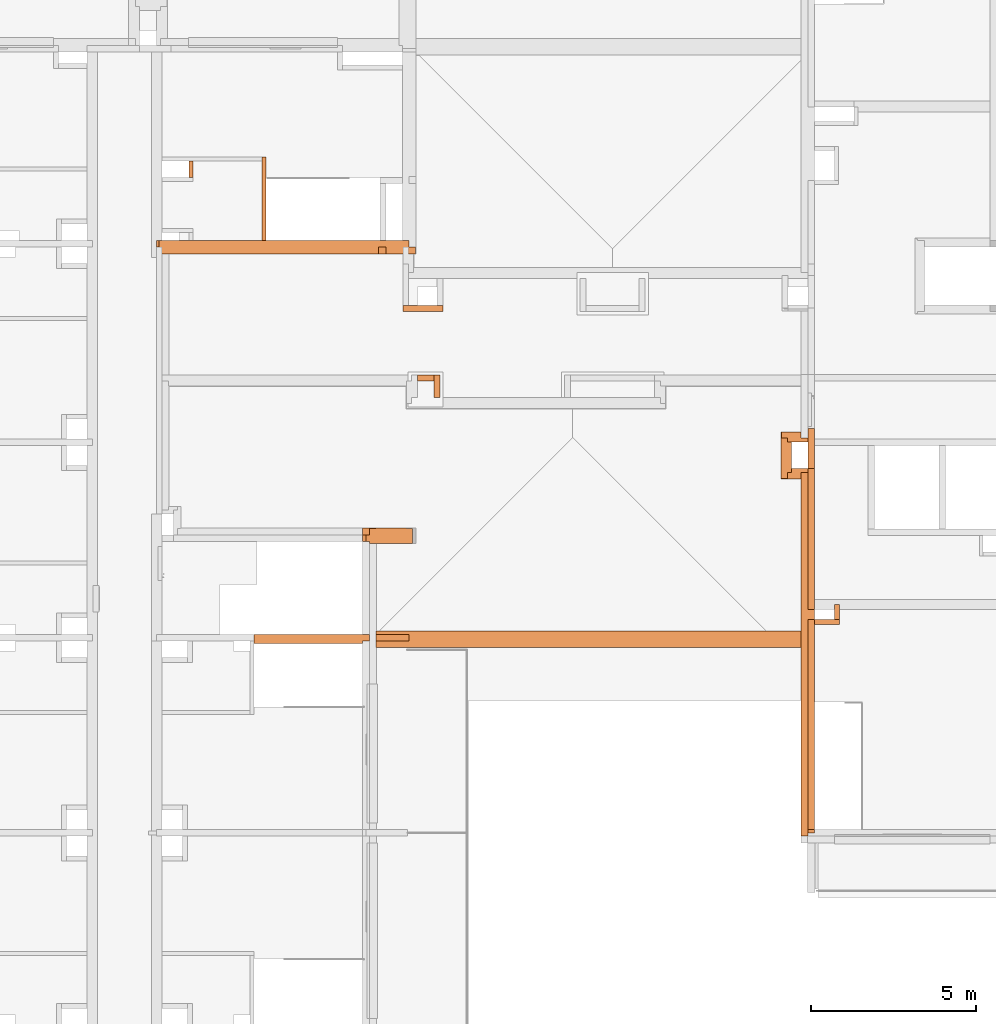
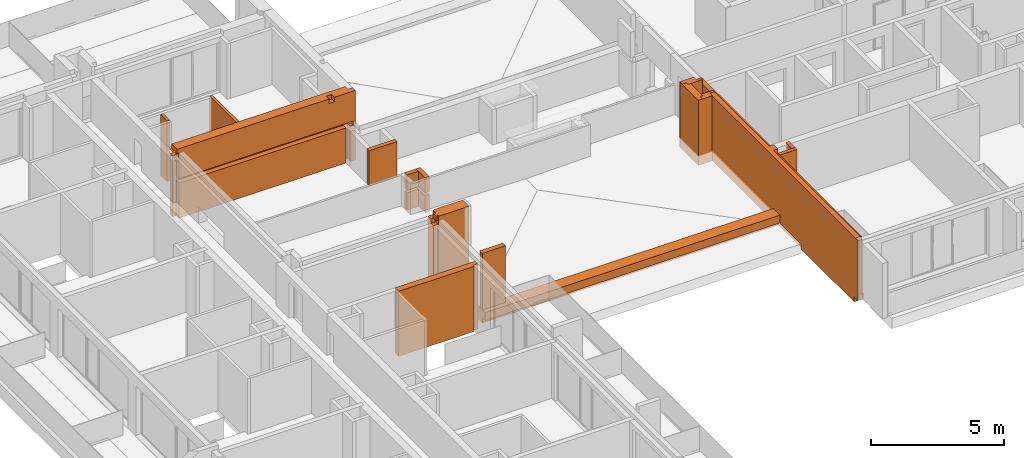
# One storey, part 18 of 30: 17 proxies, 1 opening.
"""IFC2X3 building model written with IfcOpenShell, lengths in millimetres."""

import ifcopenshell
import ifcopenshell.guid

model = None  # the IFC model being written
_history = None  # IfcOwnerHistory: only IFC2X3 demands one
_inside = {}  # id of a spatial element -> (the spatial element, [elements in it])
_under = {}  # id of a project, library or spatial element -> (it, [spatial elements below it])
_declared = {}  # id of a project -> (the project, [libraries it declares])
_typed = {}  # id of a type object -> (the type object, [elements of that type])
_made_of = {}  # id of a material, layer set ... -> (it, [elements and type objects made of it])


def new_model(schema):
    """Start an empty IFC model of exactly this schema.

    Asked for "IFC4X3", IfcOpenShell would pick the latest addendum, in which some entities
    have other attributes; the version numbers below select the first issue.
    IFC2X3 requires an IfcOwnerHistory on every rooted entity: one is made here for all.
    """
    global model, _history
    if schema == "IFC4X3":
        model = ifcopenshell.file(schema_version=(4, 3, 0, 0))
    else:
        model = ifcopenshell.file(schema=schema)
    _inside.clear()
    _under.clear()
    _declared.clear()
    _typed.clear()
    _made_of.clear()
    _history = None
    if model.schema == "IFC2X3":
        org = make("IfcOrganization", Name="unknown")
        user = make(
            "IfcPersonAndOrganization",
            ThePerson=make("IfcPerson", FamilyName="unknown"),
            TheOrganization=org,
        )
        app = make(
            "IfcApplication",
            ApplicationDeveloper=org,
            Version="unknown",
            ApplicationFullName="unknown",
            ApplicationIdentifier="unknown",
        )
        _history = make(
            "IfcOwnerHistory",
            OwningUser=user,
            OwningApplication=app,
            ChangeAction="ADDED",
            CreationDate=0,
        )
    return model


def make(cls, **values):
    """One entity of the class cls with the attributes given. An attribute that is None is left unset."""
    return model.create_entity(
        cls, **{name: value for name, value in values.items() if value is not None}
    )


def entity(cls, *values):
    """Any entity or typed value of the class cls, its attributes in the order of the schema. None: left unset."""
    e = model.create_entity(cls)
    for i, value in enumerate(values):
        if value is not None:
            e[i] = value
    return e


def rooted(cls, **values):
    """An entity with a GlobalId (a new one), such as an element, a storey or a relation."""
    return make(cls, GlobalId=ifcopenshell.guid.new(), OwnerHistory=_history, **values)


def si_unit(unit_type, name, prefix=None):
    """IfcSIUnit, for example si_unit("LENGTHUNIT", "METRE", prefix="MILLI")."""
    return make("IfcSIUnit", UnitType=unit_type, Prefix=prefix, Name=name)


def converted_unit(unit_type, name, factor, base, dimensions=None, offset=None):
    """IfcConversionBasedUnit, such as the inch: factor (a typed value) times the base unit."""
    return make(
        "IfcConversionBasedUnit"
        if offset is None
        else "IfcConversionBasedUnitWithOffset",
        ConversionOffset=offset,
        Dimensions=None
        if dimensions is None
        else entity("IfcDimensionalExponents", *dimensions),
        UnitType=unit_type,
        Name=name,
        ConversionFactor=make(
            "IfcMeasureWithUnit", ValueComponent=factor, UnitComponent=base
        ),
    )


def derived_unit(unit_type, elements):
    """IfcDerivedUnit: a product of units, each with its exponent."""
    return make(
        "IfcDerivedUnit",
        Elements=[
            make("IfcDerivedUnitElement", Unit=unit, Exponent=power)
            for unit, power in elements
        ],
        UnitType=unit_type,
    )


def money_unit(currency):
    """IfcMonetaryUnit."""
    return make("IfcMonetaryUnit", Currency=currency)


def assignment(units):
    """IfcUnitAssignment: the units of a project."""
    return None if units is None else make("IfcUnitAssignment", Units=units)


def point(xyz):
    """IfcCartesianPoint."""
    return None if xyz is None else make("IfcCartesianPoint", Coordinates=xyz)


def direction(xyz):
    """IfcDirection."""
    return None if xyz is None else make("IfcDirection", DirectionRatios=xyz)


def frame(location, z_axis=None, x_axis=None):
    """IfcAxis2Placement3D, a coordinate frame: its origin and axes. An axis left out is left unset."""
    return make(
        "IfcAxis2Placement3D",
        Location=point(location),
        Axis=direction(z_axis),
        RefDirection=direction(x_axis),
    )


def frame_2d(location, x_axis=None):
    """IfcAxis2Placement2D, a coordinate frame in the plane: its origin and x axis."""
    return make(
        "IfcAxis2Placement2D", Location=point(location), RefDirection=direction(x_axis)
    )


def origin_with_axes():
    """The frame at (0, 0, 0) with the z axis (0, 0, 1) and the x axis (1, 0, 0) written out."""
    return frame((0.0, 0.0, 0.0), z_axis=(0.0, 0.0, 1.0), x_axis=(1.0, 0.0, 0.0))


def origin_2d_with_axis():
    """The frame at (0, 0) in the plane with the x axis (1, 0) written out."""
    return frame_2d((0.0, 0.0), x_axis=(1.0, 0.0))


def place(relative_to, where):
    """IfcLocalPlacement: puts the frame where relative to a parent placement (None: the world)."""
    return make(
        "IfcLocalPlacement", PlacementRelTo=relative_to, RelativePlacement=where
    )


def context(
    kind, dimensions, precision=None, world=None, true_north=None, identifier=None
):
    """IfcGeometricRepresentationContext, for example the 3D "Model" context."""
    return make(
        "IfcGeometricRepresentationContext",
        ContextIdentifier=identifier,
        ContextType=kind,
        CoordinateSpaceDimension=dimensions,
        Precision=precision,
        WorldCoordinateSystem=world,
        TrueNorth=true_north,
    )


def subcontext(parent, identifier, kind, view, scale=None):
    """IfcGeometricRepresentationSubContext, for example "Body" below "Model"."""
    return make(
        "IfcGeometricRepresentationSubContext",
        ContextIdentifier=identifier,
        ContextType=kind,
        ParentContext=parent,
        TargetScale=scale,
        TargetView=view,
    )


def project(units=None, contexts=None):
    """IfcProject with its units and contexts."""
    return rooted(
        "IfcProject",
        Name="project",
        RepresentationContexts=contexts,
        UnitsInContext=assignment(units),
    )


def spatial(cls, under=None, at=None, **own):
    """A site, building, storey or space (cls), placed at a placement, below another one or the project."""
    s = rooted(cls, ObjectPlacement=at, **own)
    if under is not None:
        _under.setdefault(under.id(), (under, []))[1].append(s)
    return s


def profile(cls, at=None, kind="AREA", **sizes):
    """A parametric profile (cls). Its sizes go by their IFC names, for example OverallWidth=200.0."""
    return make(cls, ProfileType=kind, Position=at, **sizes)


def rectangle(**sizes):
    """IfcRectangleProfileDef."""
    return profile("IfcRectangleProfileDef", **sizes)


def extrude(swept, where, along, depth):
    """IfcExtrudedAreaSolid: the profile swept, set in the frame where, extruded along a direction by depth."""
    return make(
        "IfcExtrudedAreaSolid",
        SweptArea=swept,
        Position=where,
        ExtrudedDirection=direction(along),
        Depth=depth,
    )


def faces_of(points, faces, orient=None, outer=None):
    """IfcFace entities. A face is a list of loops; a loop is a list of indices into points, from 0.

    orient and outer hold one flag for each loop. By default every Orientation is true, the
    first loop of a face is its IfcFaceOuterBound and the others are IfcFaceBound.
    """
    made = []
    for i, loops in enumerate(faces):
        bounds = []
        for j, loop in enumerate(loops):
            is_outer = j == 0 if outer is None else outer[i][j]
            bounds.append(
                make(
                    "IfcFaceOuterBound" if is_outer else "IfcFaceBound",
                    Bound=make("IfcPolyLoop", Polygon=[points[k] for k in loop]),
                    Orientation=True if orient is None else orient[i][j],
                )
            )
        made.append(make("IfcFace", Bounds=bounds))
    return made


def faceted_brep(points, faces, orient=None, outer=None, voids=None):
    """IfcFacetedBrep: a solid bounded by flat faces; with voids (closed shells), ...WithVoids."""
    shared = [point(p) for p in points]
    hull = make("IfcClosedShell", CfsFaces=faces_of(shared, faces, orient, outer))
    if voids is None:
        return make("IfcFacetedBrep", Outer=hull)
    return make(
        "IfcFacetedBrepWithVoids",
        Outer=hull,
        Voids=[
            make(cls, CfsFaces=faces_of(shared, fs, o, b)) for cls, fs, o, b in voids
        ],
    )


def shape(context_of_items, identifier, shape_type, items):
    """IfcShapeRepresentation: the items that make up one representation, for example the "Body"."""
    return make(
        "IfcShapeRepresentation",
        ContextOfItems=context_of_items,
        RepresentationIdentifier=identifier,
        RepresentationType=shape_type,
        Items=items,
    )


def material(Name=None, Category=None):
    """IfcMaterial."""
    return make("IfcMaterial", Name=Name, Category=Category)


def material_list(materials):
    """IfcMaterialList."""
    return make("IfcMaterialList", Materials=materials)


def made_of(thing, what):
    """Note that an element or type object is made of a material, layer set ...; save() writes the relation."""
    if what is not None:
        _made_of.setdefault(what.id(), (what, []))[1].append(thing)
    return thing


def type_object(cls, material=None, **own):
    """A type object (cls), such as IfcWallType, which elements share."""
    return made_of(rooted(cls, **own), material)


def element(
    cls,
    number,
    at=None,
    inside=None,
    cuts=None,
    type_object=None,
    material=None,
    context=None,
    identifier="Body",
    shape_type=None,
    held_by="IfcProductDefinitionShape",
    body=None,
    shapes=None,
    **own,
):
    """One element of the class cls, such as IfcWall. Its Tag is "e" and its number.

    at: its placement. inside: the storey or other place that contains it. cuts: it is an
    opening in that element (IfcRelVoidsElement). A single representation is given by context,
    identifier, shape_type and body (its items); several are given by shapes. held_by: the class
    of the entity that holds the representations. save() writes the other relations.
    """
    e = rooted(cls, Tag="e%d" % number, ObjectPlacement=at, **own)
    if body is not None:
        shapes = [shape(context, identifier, shape_type, body)]
    if shapes is not None:
        e.Representation = make(held_by, Representations=shapes)
    if inside is not None:
        _inside.setdefault(inside.id(), (inside, []))[1].append(e)
    if cuts is not None:
        rooted(
            "IfcRelVoidsElement", RelatingBuildingElement=cuts, RelatedOpeningElement=e
        )
    if type_object is not None:
        _typed.setdefault(type_object.id(), (type_object, []))[1].append(e)
    return made_of(e, material)


def aggregate(whole, parts):
    """IfcRelAggregates: a whole, such as a stair, and the parts it consists of."""
    return rooted("IfcRelAggregates", RelatingObject=whole, RelatedObjects=parts)


def save(model, path):
    """Write the relations noted so far, then the file.

    IfcRelAggregates (storeys below a building ...), IfcRelContainedInSpatialStructure (elements
    in a storey), IfcRelDefinesByType, IfcRelAssociatesMaterial and IfcRelDeclares: one each for
    every whole, place, type object, material and project.
    """
    for whole, parts in _under.values():
        aggregate(whole, parts)
    for where, things in _inside.values():
        rooted(
            "IfcRelContainedInSpatialStructure",
            RelatedElements=things,
            RelatingStructure=where,
        )
    for kind, things in _typed.values():
        rooted("IfcRelDefinesByType", RelatedObjects=things, RelatingType=kind)
    for what, things in _made_of.values():
        rooted("IfcRelAssociatesMaterial", RelatedObjects=things, RelatingMaterial=what)
    for by, libraries in _declared.values():
        rooted("IfcRelDeclares", RelatingContext=by, RelatedDefinitions=libraries)
    model.write(path)


model = new_model("IFC2X3")

# Units and contexts
model_context = context("Model", 3, precision=0.01, world=origin_with_axes(), true_north=direction((0.34421633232, 0.938890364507)))
body_context = subcontext(model_context, "Body", "Model", "MODEL_VIEW")
ifc_project = project(units=[si_unit("LENGTHUNIT", "METRE", prefix="MILLI"), si_unit("AREAUNIT", "SQUARE_METRE"), si_unit("VOLUMEUNIT", "CUBIC_METRE"), converted_unit("PLANEANGLEUNIT", "DEGREE", entity("IfcPlaneAngleMeasure", 0.0174532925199), si_unit("PLANEANGLEUNIT", "RADIAN"), dimensions=[0, 0, 0, 0, 0, 0, 0]), si_unit("SOLIDANGLEUNIT", "STERADIAN"), money_unit("USD"), converted_unit("TIMEUNIT", "Year", entity("IfcTimeMeasure", 31556926.0), si_unit("TIMEUNIT", "SECOND"), dimensions=[0, 0, 1, 0, 0, 0, 0]), si_unit("MASSUNIT", "GRAM", prefix="KILO"), si_unit("THERMODYNAMICTEMPERATUREUNIT", "DEGREE_CELSIUS"), si_unit("LUMINOUSINTENSITYUNIT", "LUMEN"), si_unit("ENERGYUNIT", "JOULE", prefix="MEGA"), derived_unit("THERMALCONDUCTANCEUNIT", [(si_unit("POWERUNIT", "WATT"), 1), (si_unit("LENGTHUNIT", "METRE"), -1), (si_unit("THERMODYNAMICTEMPERATUREUNIT", "KELVIN"), -1)]), derived_unit("SPECIFICHEATCAPACITYUNIT", [(si_unit("ENERGYUNIT", "JOULE"), 1), (si_unit("MASSUNIT", "GRAM", prefix="KILO"), -1), (si_unit("THERMODYNAMICTEMPERATUREUNIT", "KELVIN"), -1)]), derived_unit("MASSDENSITYUNIT", [(si_unit("MASSUNIT", "GRAM", prefix="KILO"), 1), (si_unit("VOLUMEUNIT", "CUBIC_METRE"), -1)])], contexts=[model_context])

# Site, building, storey
site_placement = place(None, origin_with_axes())
site = spatial("IfcSite", under=ifc_project, at=site_placement, Name="USTRONIE MORSKIE", CompositionType="ELEMENT")
building_placement = place(site_placement, origin_with_axes())
building = spatial("IfcBuilding", under=site, at=building_placement, Name="Budynek", CompositionType="ELEMENT")
storey_placement = place(building_placement, frame((0.0, 0.0, 16000.0), z_axis=(0.0, 0.0, 1.0), x_axis=(1.0, 0.0, 0.0)))
storey = spatial("IfcBuildingStorey", under=building, at=storey_placement, Name="ANTRESOLA - KOND. TECHNICZNA", CompositionType="ELEMENT", Elevation=16000.0)

# Proxies
ifc_material_1 = material(Name="Bloczki silikatowe")
building_element_proxy_type_1 = type_object("IfcBuildingElementProxyType", Name="Bloczki silikatowe 120", PredefinedType="NOTDEFINED")
proxy_1_placement = place(storey_placement, frame((362787.920875, 738901.199036, -160.0), z_axis=(0.0, 0.0, 1.0), x_axis=(0.0, 1.0, 0.0)))
element("IfcBuildingElementProxy", 1, at=proxy_1_placement, inside=storey, type_object=building_element_proxy_type_1, material=ifc_material_1, Name="SW-04", context=body_context, shape_type="Brep", body=[
    faceted_brep([(2519.98134114, -60.0, 2800.0), (2519.98134114, 60.0, 2800.0), (0.0, 60.0, 2800.0), (0.0, -60.0, 2800.0), (2519.98134114, -60.0, 0.0), (2519.98134114, 60.0, 0.0), (0.0, 60.0, 0.0), (0.0, -60.0, 0.0)], [[[0, 1, 2, 3]], [[1, 0, 4, 5]], [[1, 5, 6, 2]], [[7, 3, 2, 6]], [[4, 0, 3, 7]], [[5, 4, 7, 6]]]),
])
proxy_2_placement = place(storey_placement, frame((360577.922714, 741361.180377, -160.0), z_axis=(0.0, 0.0, 1.0), x_axis=(0.0, -1.0, 0.0)))
element("IfcBuildingElementProxy", 2, at=proxy_2_placement, inside=storey, type_object=building_element_proxy_type_1, material=ifc_material_1, Name="SW-04", context=body_context, shape_type="Brep", body=[
    faceted_brep([(560.00090117, 60.0, 0.0), (560.00090117, -60.0, 0.0), (59.9999999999, -60.0, 0.0), (59.9999999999, 60.0, 0.0), (560.00090117, 60.0, 2800.0), (560.00090117, -60.0, 2800.0), (59.9999999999, -60.0, 2800.0), (59.9999999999, 60.0, 2800.0)], [[[0, 1, 2, 3]], [[1, 0, 4, 5]], [[1, 5, 6, 2]], [[7, 3, 2, 6]], [[4, 0, 3, 7]], [[5, 4, 7, 6]]]),
])
ifc_material_2 = material(Name="Beton konstrukcyjny B25")
ifc_material_3 = material(Name="Wełna ELEW")
ifc_material_4 = material(Name="Tynk zewnętrzny")
ifc_material_list_1 = material_list([ifc_material_2, ifc_material_3, ifc_material_4])
building_element_proxy_type_2 = type_object("IfcBuildingElementProxyType", Name="20+20 410", PredefinedType="NOTDEFINED")
proxy_3_placement = place(storey_placement, frame((379317.920919, 732011.199132, -160.0), z_axis=(0.0, 0.0, 1.0), x_axis=(0.0, -1.0, 0.0)))
element("IfcBuildingElementProxy", 3, at=proxy_3_placement, inside=storey, type_object=building_element_proxy_type_2, material=ifc_material_list_1, Name="Œciana-006", context=body_context, shape_type="Brep", body=[
    faceted_brep([(4560.00009633, -100.0, 3000.0), (4560.00009633, 100.0, 3000.0), (4260.00009633, 100.0, 3000.0), (4260.00009633, -100.0, 3000.0), (4560.00009633, 100.0, 2800.0), (4560.00009633, -100.0, 2800.0), (10910.0000963, 100.0, 2800.0), (10910.0000963, 100.0, 239.99999792), (11010.0000963, 100.0, 239.99999792), (11010.0000963, 100.0, 0.0), (0.0, 100.0, 0.0), (0.0, 100.0, 2800.0), (4260.00009633, 100.0, 2800.0), (4260.00009633, -100.0, 2800.0), (0.0, -100.0, 2800.0), (0.0, -100.0, 0.0), (11010.0000963, -100.0, 0.0), (11010.0000963, -100.0, 239.99999792), (10910.0000963, -100.0, 239.99999792), (10910.0000963, -100.0, 2800.0)], [[[0, 1, 2, 3]], [[4, 1, 0, 5]], [[4, 6, 7, 8, 9, 10, 11, 12, 2, 1]], [[3, 2, 12, 13]], [[5, 0, 3, 13, 14, 15, 16, 17, 18, 19]], [[6, 4, 5, 19]], [[6, 19, 18, 7]], [[17, 8, 7, 18]], [[9, 8, 17, 16]], [[15, 10, 9, 16]], [[14, 11, 10, 15]], [[12, 11, 14, 13]]]),
    faceted_brep([(7010.00076688, -250.000165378, 240.000001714), (7010.00076688, -300.0, 240.000001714), (5210.00009633, -300.0, 240.000001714), (5210.00009633, -249.999904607, 240.000001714), (7010.00076688, -300.0, 1.71373493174e-06), (7010.00076688, -250.000165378, 1.71373493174e-06), (11010.0000963, -300.0, 0.0), (11010.0000963, -300.0, 240.0), (11110.0000963, -300.0, 239.99999792), (11110.0000963, -300.0, 3000.0), (120.0, -300.0, 3000.0), (120.0, -300.0, 5.0), (5210.00009633, -300.0, 5.00000171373), (5210.00009633, -249.999904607, 5.00000171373), (5210.00009633, -249.999904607, 1.71373493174e-06), (5210.00009633, -100.0, 0.0), (11010.0000963, -100.0, 0.0), (11010.0000963, -100.0, 240.0), (11110.0000963, -100.0, 239.99999792), (11110.0000963, -100.0, 3000.0), (120.0, -100.0, 3000.0), (120.0, -100.0, 5.0), (5210.00009633, -100.0, 5.0)], [[[0, 1, 2, 3]], [[4, 1, 0, 5]], [[2, 1, 4, 6, 7, 8, 9, 10, 11, 12]], [[13, 3, 2, 12]], [[5, 0, 3, 13, 14]], [[4, 5, 14, 15, 16, 6]], [[17, 7, 6, 16]], [[7, 17, 18, 8]], [[9, 8, 18, 19]], [[20, 10, 9, 19]], [[21, 11, 10, 20]], [[22, 13, 12, 11, 21]], [[15, 14, 13, 22]], [[16, 15, 22, 21, 20, 19, 18, 17]]]),
    faceted_brep([(4910.00009633, -299.990240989, 5.00000160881), (4910.00009633, -299.990240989, 457.212185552), (310.0, -299.990240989, 457.212186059), (310.0, -300.0, 3000.0), (11310.0000963, -300.0, 3000.0), (11310.0000963, -300.0, 239.99999792), (11010.0000963, -300.0, 240.0), (11010.0000963, -300.0, 0.0), (7010.00076688, -300.0, 1.71373493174e-06), (7010.00076688, -300.0, 240.000001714), (5210.00009633, -300.0, 240.000001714), (5210.00009633, -300.0, 5.00000171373), (4910.00009633, -310.0, 5.00000160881), (4910.00009633, -310.0, 457.011990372), (310.0, -310.0, 457.011990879), (310.0, -310.0, 3000.0), (11310.0000963, -310.0, 3000.0), (11310.0000963, -310.0, 239.99999792), (11010.0000963, -310.0, 240.0), (11010.0000963, -310.0, 0.0), (7010.00076688, -310.0, 1.71373493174e-06), (7010.00076688, -310.0, 240.000001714), (5210.00009633, -310.0, 240.000001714), (5210.00009633, -310.0, 5.00000171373)], [[[0, 1, 2, 3, 4, 5, 6, 7, 8, 9, 10, 11]], [[1, 0, 12, 13]], [[14, 2, 1, 13]], [[2, 14, 15, 3]], [[3, 15, 16, 4]], [[16, 17, 5, 4]], [[18, 6, 5, 17]], [[6, 18, 19, 7]], [[19, 20, 8, 7]], [[20, 21, 9, 8]], [[22, 10, 9, 21]], [[11, 10, 22, 23]], [[12, 0, 11, 23]], [[13, 12, 23, 22, 21, 20, 19, 18, 17, 16, 15, 14]]]),
])
proxy_4_placement = place(storey_placement, frame((359617.920919, 738801.199036, -160.0), z_axis=(0.0, 0.0, 1.0), x_axis=(1.0, 0.0, 0.0)))
element("IfcBuildingElementProxy", 4, at=proxy_4_placement, inside=storey, type_object=building_element_proxy_type_2, material=ifc_material_list_1, Name="SZ-01", context=body_context, shape_type="Brep", body=[
    faceted_brep([(-80.0, 100.0, 0.0), (-80.0, 100.0, 2800.0), (6850.0, 100.0, 2800.0), (6850.0, 100.0, 3000.0), (-80.0, 100.0, 3000.0), (-80.0, 100.0, 3005.0), (0.0, 100.0, 3005.0), (0.0, 100.0, 3210.0), (7550.0, 100.0, 3210.0), (7550.0, 100.0, 7.43902717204e-08), (-80.0, -100.0, 0.0), (-80.0, -100.0, 2800.0), (6850.0, -100.000111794, 2800.0), (79.9999481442, -100.000111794, 2800.0), (6850.0, -100.000111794, 3000.0), (-80.0, -100.0, 3000.0), (-80.0, -100.0, 3005.0), (0.0, -100.0, 3005.0), (0.0, -100.0, 3210.0), (7550.0, -100.0, 3210.0), (7550.0, -100.0, 0.0)], [[[0, 1, 2, 3, 4, 5, 6, 7, 8, 9]], [[10, 11, 1, 0]], [[12, 2, 1, 11, 13]], [[14, 3, 2, 12]], [[15, 4, 3, 14]], [[5, 4, 15, 16]], [[5, 16, 17, 6]], [[7, 6, 17, 18]], [[7, 18, 19, 8]], [[8, 19, 20, 9]], [[10, 0, 9, 20]], [[12, 13, 11, 10, 20, 19, 18, 17, 16, 15, 14]]]),
    faceted_brep([(79.9999481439, -100.000111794, 1620.00000171), (7360.0, -100.000111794, 1620.00000171), (7360.0, -100.000013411, 5.0), (80.0, -100.000013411, 5.0), (7360.0, -300.0, 1620.00000171), (79.9999481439, -300.0, 1620.00000171), (7360.0, -300.0, 5.0), (80.0, -300.0, 5.0)], [[[0, 1, 2, 3]], [[4, 1, 0, 5]], [[1, 4, 6, 2]], [[3, 2, 6, 7]], [[5, 0, 3, 7]], [[4, 5, 7, 6]]]),
    faceted_brep([(7690.0, -100.000111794, 1825.00000171), (79.9999481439, -100.000111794, 1825.00000171), (80.0, -100.0, 3005.0), (0.0, -100.0, 3005.0), (0.0, -100.0, 3210.0), (6630.0, -100.0, 3210.0), (6630.0, -100.0, 3000.0), (6850.0, -100.0, 3000.0), (6850.0, -100.0, 3210.0), (7750.0, -100.0, 3210.0), (7750.0, -100.0, 5.0), (7549.99992847, -100.000013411, 5.0), (7539.99999881, -100.000013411, 5.0), (7539.99999987, -100.000111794, 1620.00000171), (7690.0, -100.000111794, 1620.00000171), (7690.0, -100.000111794, 1820.00000171), (7690.0, -300.0, 1825.00000171), (79.9999481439, -300.0, 1825.00000171), (80.0, -300.0, 3005.0), (0.0, -300.0, 3005.0), (0.0, -300.0, 3210.0), (6630.0, -300.0, 3210.0), (6630.0, -300.0, 3000.0), (6850.0, -300.0, 3000.0), (6850.0, -300.0, 3210.0), (7750.0, -300.0, 3210.0), (7750.0, -300.0, 5.0), (7539.99999881, -300.0, 5.0), (7539.99999987, -300.0, 1620.00000171), (7690.0, -300.0, 1620.00000171), (7690.0, -300.0, 1820.00000171)], [[[0, 1, 2, 3, 4, 5, 6, 7, 8, 9, 10, 11, 12, 13, 14, 15]], [[1, 0, 16, 17]], [[1, 17, 18, 2]], [[19, 3, 2, 18]], [[4, 3, 19, 20]], [[20, 21, 5, 4]], [[22, 6, 5, 21]], [[7, 6, 22, 23]], [[23, 24, 8, 7]], [[9, 8, 24, 25]], [[26, 10, 9, 25]], [[11, 10, 26, 27, 12]], [[28, 13, 12, 27]], [[14, 13, 28, 29]], [[30, 15, 14, 29]], [[0, 15, 30, 16]], [[16, 30, 29, 28, 27, 26, 25, 24, 23, 22, 21, 20, 19, 18, 17]]]),
    faceted_brep([(280.0, -300.0, 1620.00000171), (7360.0, -300.0, 1620.00000171), (7360.0, -300.0, 5.0), (280.0, -300.0, 5.0), (7360.0, -310.0, 1620.00000171), (280.0, -310.0, 1620.00000171), (7360.0, -310.0, 5.0), (280.0, -310.0, 5.0)], [[[0, 1, 2, 3]], [[4, 1, 0, 5]], [[1, 4, 6, 2]], [[3, 2, 6, 7]], [[5, 0, 3, 7]], [[4, 5, 7, 6]]]),
    faceted_brep([(7690.0, -300.0, 1825.00000171), (280.0, -300.0, 1825.00000171), (280.0, -300.0, 3005.0), (0.0, -300.0, 3005.0), (0.0, -300.0, 3210.0), (6620.0, -300.0, 3210.0), (6620.0, -300.0, 3000.0), (6850.0, -300.0, 3000.0), (6850.0, -300.0, 3210.0), (7760.0, -300.0, 3210.0), (7760.0, -300.0, 1819.99999023), (7760.0, -300.0, 5.0), (7690.00000119, -300.0, 5.0), (7690.0, -300.0, 1820.00000171), (7690.0, -310.000111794, 1825.00000171), (280.0, -310.0, 1825.00000171), (280.0, -310.0, 3005.0), (0.0, -310.0, 3005.0), (0.0, -310.0, 3210.0), (6620.0, -310.000111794, 3210.0), (6620.0, -310.000111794, 3000.0), (6850.0, -310.000111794, 3000.0), (6850.0, -310.000111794, 3210.0), (7760.0, -310.0, 3210.0), (7760.0, -310.0, 1819.99999023), (7760.0, -310.0, 5.0), (7690.00000119, -310.0, 5.0), (7690.0, -310.0, 1820.00000171)], [[[0, 1, 2, 3, 4, 5, 6, 7, 8, 9, 10, 11, 12, 13]], [[1, 0, 14, 15]], [[1, 15, 16, 2]], [[3, 2, 16, 17]], [[4, 3, 17, 18]], [[18, 19, 5, 4]], [[20, 6, 5, 19]], [[7, 6, 20, 21]], [[21, 22, 8, 7]], [[9, 8, 22, 23]], [[9, 23, 24, 10]], [[25, 11, 10, 24]], [[12, 11, 25, 26]], [[27, 13, 12, 26]], [[0, 13, 27, 14]], [[14, 27, 26, 25, 24, 23, 22, 21, 20, 19, 18, 17, 16, 15]]]),
])
building_element_proxy_type_3 = type_object("IfcBuildingElementProxyType", Name="Bloczki silikatowe 180", PredefinedType="NOTDEFINED")
proxy_5_placement = place(storey_placement, frame((368007.880972, 734741.214609, -159.999998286), z_axis=(0.0, 0.0, 1.0), x_axis=(1.01056317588e-05, -0.999999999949, 0.0)))
element("IfcBuildingElementProxy", 5, at=proxy_5_placement, inside=storey, type_object=building_element_proxy_type_3, material=ifc_material_1, Name="SW-02", context=body_context, shape_type="Brep", body=[
    faceted_brep([(-89.9990904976, -90.0, 0.0), (-89.9990904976, -90.0, 800.0), (-90.0009095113, 90.0, 800.0), (-90.0009095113, 90.0, 0.0), (590.011815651, -90.0, 0.0), (590.011815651, -90.0, 800.0), (590.013634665, 90.0, 800.0), (590.013634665, 90.0, 0.0)], [[[0, 1, 2, 3]], [[4, 5, 1, 0]], [[5, 6, 2, 1]], [[3, 2, 6, 7]], [[3, 7, 4, 0]], [[7, 6, 5, 4]]]),
    faceted_brep([(-89.9990904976, -90.0, 920.0), (-89.9990904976, -90.0, 1620.0), (-90.0009095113, 90.0, 1620.0), (-90.0009095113, 90.0, 920.0), (590.011815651, -90.0, 1620.0), (90.0000000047, -90.0, 1620.0), (590.011815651, -90.0, 920.0), (590.013634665, 90.0, 1620.0), (90.0009095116, 90.0, 1620.0), (590.013634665, 90.0, 920.0)], [[[0, 1, 2, 3]], [[4, 5, 1, 0, 6]], [[7, 8, 2, 1, 5, 4]], [[3, 2, 8, 7, 9]], [[6, 0, 3, 9]], [[9, 7, 4, 6]]]),
])
proxy_6_placement = place(storey_placement, frame((367067.920919, 736841.199036, -160.0), z_axis=(0.0, 0.0, 1.0), x_axis=(1.0, 0.0, 0.0)))
element("IfcBuildingElementProxy", 6, at=proxy_6_placement, inside=storey, type_object=building_element_proxy_type_3, material=ifc_material_1, Name="SW-02", context=body_context, shape_type="Brep", body=[
    faceted_brep([(-90.0, 90.0, 0.0), (-90.0, 90.0, 1620.00000171), (1129.98317971, 90.0, 1620.00000171), (1129.98317971, 90.0, 0.0), (-90.0, -90.0, 0.0), (-90.0, -90.0, 1620.00000171), (1129.98317971, -90.0, 1620.00000171), (1129.98317971, -90.0, 0.0)], [[[0, 1, 2, 3]], [[4, 5, 1, 0]], [[5, 6, 2, 1]], [[3, 2, 6, 7]], [[0, 3, 7, 4]], [[7, 6, 5, 4]]]),
])
proxy_7_placement = place(storey_placement, frame((368007.880972, 734741.214609, -159.999998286), z_axis=(0.0, 0.0, 1.0), x_axis=(-0.999999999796, -2.0211263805e-05, 0.0)))
element("IfcBuildingElementProxy", 7, at=proxy_7_placement, inside=storey, type_object=building_element_proxy_type_3, material=ifc_material_1, Name="SW-02", context=body_context, shape_type="Brep", body=[
    faceted_brep([(589.981616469, -90.0047202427, -1.71372960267e-06), (589.981616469, -90.0047202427, 800.0), (89.9990904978, -89.9999999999, 800.0), (89.9990904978, -89.9999999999, 0.0), (589.983435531, 90.0000000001, -1.71372960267e-06), (589.983435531, 90.0000000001, 800.0), (90.0009095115, 90.0, 800.0), (90.0009095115, 90.0, 0.0)], [[[0, 1, 2, 3]], [[4, 5, 1, 0]], [[5, 6, 2, 1]], [[3, 2, 6, 7]], [[3, 7, 4, 0]], [[7, 6, 5, 4]]]),
    faceted_brep([(589.981616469, -90.0047202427, 920.0), (589.981616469, -90.0047202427, 1620.0), (89.9990904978, -89.9999999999, 1620.0), (89.9990904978, -89.9999999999, 920.0), (589.983435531, 90.0000000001, 920.0), (589.983435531, 90.0000000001, 1620.0), (90.0009095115, 90.0, 1620.0), (90.0009095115, 90.0, 920.0)], [[[0, 1, 2, 3]], [[4, 5, 1, 0]], [[5, 6, 2, 1]], [[3, 2, 6, 7]], [[4, 0, 3, 7]], [[7, 6, 5, 4]]]),
])
building_element_proxy_type_4 = type_object("IfcBuildingElementProxyType", Name="Bloczki silikatowe 150", PredefinedType="NOTDEFINED")
proxy_8_placement = place(storey_placement, frame((379317.920919, 727451.199036, -160.0), z_axis=(0.0, 0.0, 1.0), x_axis=(1.0, 0.0, 0.0)))
element("IfcBuildingElementProxy", 8, at=proxy_8_placement, inside=storey, type_object=building_element_proxy_type_4, material=ifc_material_1, Name="SW-03", context=body_context, shape_type="Brep", body=[
    faceted_brep([(850.00090117, -150.0, 2800.0), (850.00090117, 0.0, 2800.0), (100.0, 0.0, 2800.0), (100.0, -150.0, 2800.0), (850.00090117, -150.0, 0.0), (850.00090117, 0.0, 0.0), (100.0, 0.0, 0.0), (100.0, -150.0, 0.0)], [[[0, 1, 2, 3]], [[1, 0, 4, 5]], [[1, 5, 6, 2]], [[7, 3, 2, 6]], [[4, 0, 3, 7]], [[5, 4, 7, 6]]]),
])
proxy_9_placement = place(storey_placement, frame((380017.92182, 727451.199036, -160.0), z_axis=(0.0, 0.0, 1.0), x_axis=(0.0, 1.0, 0.0)))
element("IfcBuildingElementProxy", 9, at=proxy_9_placement, inside=storey, type_object=building_element_proxy_type_4, material=ifc_material_1, Name="SW-03", context=body_context, shape_type="Brep", body=[
    faceted_brep([(450.0, -150.0, 2800.0), (450.0, 0.0, 2800.0), (0.0, 0.0, 2800.0), (0.0, -150.0, 2800.0), (450.0, -150.0, 0.0), (450.0, 0.0, 0.0), (0.0, 0.0, 0.0), (0.0, -150.0, 0.0)], [[[0, 1, 2, 3]], [[1, 0, 4, 5]], [[1, 5, 6, 2]], [[7, 3, 2, 6]], [[4, 0, 3, 7]], [[5, 4, 7, 6]]]),
])
building_element_proxy_type_5 = type_object("IfcBuildingElementProxyType", Name="Beton konstrukcyjny B25 200", PredefinedType="NOTDEFINED")
proxy_10_placement = place(storey_placement, frame((379317.920919, 732811.199494, -160.0), z_axis=(0.0, 0.0, 1.0), x_axis=(0.0, -1.0, 0.0)))
element("IfcBuildingElementProxy", 10, at=proxy_10_placement, inside=storey, type_object=building_element_proxy_type_5, material=ifc_material_2, Name="SW-01", context=body_context, shape_type="Brep", body=[
    faceted_brep([(-410.0, -100.0, 0.0), (-410.0, -100.0, 2800.0), (-410.0, 100.0, 2800.0), (-410.0, 100.0, 0.0), (800.000361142, -100.0, 0.0), (800.000361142, -100.0, 2800.0), (800.000361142, 100.0, 2800.0), (800.000361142, 100.0, 0.0)], [[[0, 1, 2, 3]], [[4, 5, 1, 0]], [[5, 6, 2, 1]], [[3, 2, 6, 7]], [[0, 3, 7, 4]], [[7, 6, 5, 4]]]),
])
proxy_11_placement = place(storey_placement, frame((366167.920823, 726901.199036, 439.99999794), z_axis=(0.0, 0.0, 1.0), x_axis=(1.0, 0.0, 0.0)))
element("IfcBuildingElementProxy", 11, at=proxy_11_placement, inside=storey, type_object=building_element_proxy_type_5, material=ifc_material_2, Name="SW-01", context=body_context, shape_type="Brep", body=[
    faceted_brep([(0.0, 100.0, 0.0), (1000.00014085, 100.0, 0.0), (1000.00014085, -100.0, 0.0), (0.0, -100.0, 0.0), (0.0, 100.0, 2610.00000218), (1000.00014085, 100.0, 2610.00000218), (1000.00014085, -100.0, 2610.00000218), (0.0, -100.0, 2610.00000218)], [[[0, 1, 2, 3]], [[4, 5, 1, 0]], [[2, 1, 5, 6]], [[3, 2, 6, 7]], [[4, 0, 3, 7]], [[7, 6, 5, 4]]]),
])
ifc_material_5 = material(Name="Płyta GK")
ifc_material_6 = material(Name="Izolacja akustyczna")
ifc_material_list_2 = material_list([ifc_material_5, ifc_material_6, ifc_material_2])
building_element_proxy_type_6 = type_object("IfcBuildingElementProxyType", Name="20+5 AKU 275", PredefinedType="NOTDEFINED")
proxy_12_placement = place(storey_placement, frame((365867.920919, 726901.199036, -359.999998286), z_axis=(0.0, 0.0, 1.0), x_axis=(-1.0, 0.0, 0.0)))
element("IfcBuildingElementProxy", 12, at=proxy_12_placement, inside=storey, type_object=building_element_proxy_type_6, material=ifc_material_list_2, Name="Œciana-006", context=body_context, shape_type="Brep", body=[
    faceted_brep([(3390.0, 150.0, 2999.99999829), (100.0, 150.0, 2999.99999829), (100.0, 150.0, 0.0), (3390.0, 150.0, 0.0), (100.0, 175.0, 2999.99999829), (3390.0, 175.0, 2999.99999829), (100.0, 175.0, 0.0), (3390.0, 175.0, 0.0)], [[[0, 1, 2, 3]], [[4, 1, 0, 5]], [[1, 4, 6, 2]], [[6, 7, 3, 2]], [[5, 0, 3, 7]], [[4, 5, 7, 6]]]),
    faceted_brep([(3390.0, 100.0, 2999.99999829), (100.0, 100.0, 2999.99999829), (100.0, 100.0, 0.0), (3390.0, 100.0, 0.0), (100.0, 150.0, 2999.99999829), (3390.0, 150.0, 2999.99999829), (100.0, 150.0, 0.0), (3390.0, 150.0, 0.0)], [[[0, 1, 2, 3]], [[4, 1, 0, 5]], [[1, 4, 6, 2]], [[6, 7, 3, 2]], [[5, 0, 3, 7]], [[4, 5, 7, 6]]]),
    faceted_brep([(3390.0, -100.0, 2999.99999829), (-100.0, -100.0, 2999.99999829), (-100.0, -100.0, 0.0), (3390.0, -100.0, 0.0), (-100.0, 100.0, 2999.99999829), (3390.0, 100.0, 2999.99999829), (-100.0, 100.0, 0.0), (3390.0, 100.0, 0.0)], [[[0, 1, 2, 3]], [[4, 1, 0, 5]], [[1, 4, 6, 2]], [[6, 7, 3, 2]], [[5, 0, 3, 7]], [[4, 5, 7, 6]]]),
])

# Proxy, opening
ifc_material_list_3 = material_list([ifc_material_4, ifc_material_3, ifc_material_2, ifc_material_3, ifc_material_4])
building_element_proxy_type_7 = type_object("IfcBuildingElementProxyType", Name="20+20-5 470", PredefinedType="NOTDEFINED")
proxy_13_placement = place(storey_placement, frame((365867.920919, 729901.198672, -245.0), z_axis=(0.0, 0.0, 1.0), x_axis=(1.0, 0.0, 0.0)))
proxy_13 = element("IfcBuildingElementProxy", 13, at=proxy_13_placement, inside=storey, type_object=building_element_proxy_type_7, material=ifc_material_list_3, Name="Œciana-007", context=body_context, shape_type="Brep", body=[
    faceted_brep([(1510.03703938, 300.0, 90.0), (1510.03703938, 310.0, 90.0), (1510.03703938, 310.0, 3295.0), (1510.03703938, 300.0, 3295.0), (-100.000015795, 310.0, 90.0), (-100.000015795, 300.0, 90.0), (-100.000015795, 310.0, 3085.0), (0.0, 310.000346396, 3085.0), (300.0, 310.000346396, 3085.0), (300.0, 310.000346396, 3295.0), (300.0, 300.0, 3295.0), (300.0, 300.0, 3085.0), (0.0, 300.0, 3085.0), (-100.000015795, 300.0, 3085.0)], [[[0, 1, 2, 3]], [[4, 1, 0, 5]], [[1, 4, 6, 7, 8, 9, 2]], [[2, 9, 10, 3]], [[5, 0, 3, 10, 11, 12, 13]], [[4, 5, 13, 6]], [[13, 12, 7, 6]], [[12, 11, 8, 7]], [[11, 10, 9, 8]]]),
    faceted_brep([(1510.03703938, 100.0, 90.0), (1510.03703938, 300.0, 90.0), (1510.03703938, 300.0, 3295.0), (1510.03703938, 100.0, 3295.0), (-100.000015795, 300.0, 90.0), (-100.000015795, 100.0, 90.0), (-100.000015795, 300.0, 3085.0), (0.0, 300.0, 3085.0), (100.0, 300.0, 3085.0), (100.0, 300.0, 3295.0), (100.0, 100.0, 3295.0), (100.0, 100.0, 3085.0), (0.0, 100.0, 3085.0), (-100.000015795, 100.0, 3085.0)], [[[0, 1, 2, 3]], [[4, 1, 0, 5]], [[1, 4, 6, 7, 8, 9, 2]], [[2, 9, 10, 3]], [[5, 0, 3, 10, 11, 12, 13]], [[4, 5, 13, 6]], [[13, 12, 7, 6]], [[11, 8, 7, 12]], [[11, 10, 9, 8]]]),
    faceted_brep([(-100.000015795, 100.000346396, 2885.0), (-80.0, 100.000346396, 2885.0), (100.0, 100.000346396, 2885.0), (100.0, 100.000346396, 3085.0), (0.0, 100.000346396, 3085.0), (0.0, 100.0, 3295.00000015), (1510.03703938, 100.0, 3295.0), (1510.03703938, 100.0, 85.0), (-100.000015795, 100.0, 85.0), (-80.0, -100.0, 2885.0), (-100.000013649, -99.99997991, 2885.0), (100.0, -100.0, 2885.0), (100.0, -100.0, 3085.0), (0.0, -100.0, 3085.0), (0.0, -100.0, 3295.00000015), (1510.03703938, -100.0, 3295.0), (1510.03703938, -100.0, 85.0), (-99.9999836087, -99.9996986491, 85.0)], [[[0, 1, 2, 3, 4, 5, 6, 7, 8]], [[9, 1, 0, 10]], [[1, 9, 11, 2]], [[12, 3, 2, 11]], [[13, 4, 3, 12]], [[5, 4, 13, 14]], [[15, 6, 5, 14]], [[6, 15, 16, 7]], [[16, 17, 8, 7]], [[10, 0, 8, 17]], [[9, 10, 17, 16, 15, 14, 13, 12, 11]]]),
    faceted_brep([(1510.03703938, -150.0, 90.0), (1510.03703938, -100.0, 90.0), (1510.03703938, -100.0, 3295.0), (1510.03703938, -150.0, 3295.0), (100.0, -100.0, 90.0), (100.0, -150.0, 90.0), (100.0, -100.0, 3295.0), (100.0, -150.0, 3295.0)], [[[0, 1, 2, 3]], [[4, 1, 0, 5]], [[1, 4, 6, 2]], [[2, 6, 7, 3]], [[5, 0, 3, 7]], [[4, 5, 7, 6]]]),
    faceted_brep([(1510.03703938, -160.0, 90.0), (1510.03703938, -150.0, 90.0), (1510.03703938, -150.0, 3295.0), (1510.03703938, -160.0, 3295.0), (300.0, -150.0, 90.0), (300.0, -160.0, 90.0), (300.0, -150.0, 3295.0), (300.0, -160.0, 3295.0)], [[[0, 1, 2, 3]], [[4, 1, 0, 5]], [[1, 4, 6, 2]], [[2, 6, 7, 3]], [[5, 0, 3, 7]], [[4, 5, 7, 6]]]),
])
opening_placement = place(proxy_13_placement, frame((1510.03703938, 0.0, 0.0), z_axis=(0.0, 0.0, 1.0), x_axis=(1.0, 0.0, 0.0)))
element("IfcOpeningElement", 14, at=opening_placement, cuts=proxy_13, Name="ZS1", context=body_context, shape_type="SweptSolid", body=[
    extrude(rectangle(XDim=9.99999999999, YDim=100.0, at=origin_2d_with_axis()), frame((-50.0, 305.0, 0.0), z_axis=(0.0, 0.0, 1.0), x_axis=(0.0, -1.0, 0.0)), (0.0, 0.0, 1.0), 3295.0),
    extrude(rectangle(XDim=9.99999999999, YDim=200.0, at=origin_2d_with_axis()), frame((-200.0, 305.0, 0.0), z_axis=(0.0, 0.0, 1.0), x_axis=(0.0, -1.0, 0.0)), (0.0, 0.0, 1.0), 3295.0),
    extrude(rectangle(XDim=9.99999999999, YDim=100.0, at=origin_2d_with_axis()), frame((-50.0, -155.0, 0.0), z_axis=(0.0, 0.0, 1.0), x_axis=(0.0, -1.0, 0.0)), (0.0, 0.0, 1.0), 3295.0),
    extrude(rectangle(XDim=9.99999999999, YDim=200.0, at=origin_2d_with_axis()), frame((-200.0, -155.0, 0.0), z_axis=(0.0, 0.0, 1.0), x_axis=(0.0, -1.0, 0.0)), (0.0, 0.0, 1.0), 3295.0),
    extrude(rectangle(XDim=450.0, YDim=100.0, at=origin_2d_with_axis()), frame((-50.0, 75.0, 0.0), z_axis=(0.0, 0.0, 1.0), x_axis=(0.0, -1.0, 0.0)), (0.0, 0.0, 1.0), 3295.0),
])

# Proxies
ifc_material_list_4 = material_list([ifc_material_4, ifc_material_3, ifc_material_1, ifc_material_3, ifc_material_4])
building_element_proxy_type_8 = type_object("IfcBuildingElementProxyType", Name="18 SILIKAT+20-10 500", PredefinedType="NOTDEFINED")
proxy_14_placement = place(storey_placement, frame((366167.920827, 726901.199036, -160.00000206), z_axis=(0.0, 0.0, 1.0), x_axis=(1.0, 0.0, 0.0)))
element("IfcBuildingElementProxy", 15, at=proxy_14_placement, inside=storey, type_object=building_element_proxy_type_8, material=ifc_material_list_4, Name="Œciana-006", context=body_context, shape_type="Brep", body=[
    faceted_brep([(12850.0000923, 190.0, 5.00000206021), (12850.0000923, 200.0, 5.00000206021), (12850.0000923, 200.0, 600.0), (12850.0000923, 190.0, 600.0), (0.0, 200.0, 5.00000206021), (0.0, 190.0, 5.00000206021), (0.0, 200.0, 600.0), (0.0, 190.0, 600.0)], [[[0, 1, 2, 3]], [[4, 1, 0, 5]], [[1, 4, 6, 2]], [[7, 3, 2, 6]], [[5, 0, 3, 7]], [[4, 5, 7, 6]]]),
    faceted_brep([(12850.0000923, 90.0, 5.00000206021), (12850.0000923, 190.0, 5.00000206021), (12850.0000923, 190.0, 600.0), (12850.0000923, 90.0, 600.0), (0.0, 190.0, 5.00000206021), (0.0, 90.0, 5.00000206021), (0.0, 190.0, 600.0), (0.0, 90.0, 600.0)], [[[0, 1, 2, 3]], [[4, 1, 0, 5]], [[1, 4, 6, 2]], [[7, 3, 2, 6]], [[5, 0, 3, 7]], [[4, 5, 7, 6]]]),
    faceted_brep([(12850.0000923, 90.0, 0.0), (12850.0000923, -90.0, 0.0), (0.0, -90.0, 0.0), (0.0, 90.0, 0.0), (12850.0000923, 90.0, 600.0), (12850.0000923, -90.0, 600.0), (0.0, -90.0, 600.0), (0.0, 90.0, 600.0)], [[[0, 1, 2, 3]], [[0, 4, 5, 1]], [[1, 5, 6, 2]], [[3, 2, 6, 7]], [[4, 0, 3, 7]], [[5, 4, 7, 6]]]),
    faceted_brep([(12850.0000923, -100.0, 240.000003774), (12850.0000923, -100.0, 3.77394293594e-06), (12850.0000923, -90.0, 0.0), (12850.0000923, -90.0, 600.0), (12850.0000923, -290.0, 600.0), (12850.0000923, -290.0, 240.000003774), (0.0, -100.0, 240.000003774), (0.0, -100.0, 3.77394293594e-06), (0.0, -90.0, 0.0), (0.0, -90.0, 600.0), (0.0, -290.0, 600.0), (0.0, -290.0, 240.000003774)], [[[0, 1, 2, 3, 4, 5]], [[0, 6, 7, 1]], [[1, 7, 8, 2]], [[9, 3, 2, 8]], [[10, 4, 3, 9]], [[11, 5, 4, 10]], [[0, 5, 11, 6]], [[6, 11, 10, 9, 8, 7]]]),
    faceted_brep([(12850.0000923, -300.0, 240.000003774), (12850.0000923, -290.0, 240.000003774), (12850.0000923, -290.0, 600.0), (12850.0000923, -300.0, 600.0), (0.0, -290.0, 240.000003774), (0.0, -300.0, 240.000003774), (0.0, -290.0, 600.0), (0.0, -300.0, 600.0)], [[[0, 1, 2, 3]], [[4, 1, 0, 5]], [[1, 4, 6, 2]], [[7, 3, 2, 6]], [[5, 0, 3, 7]], [[4, 5, 7, 6]]]),
])
ifc_material_list_5 = material_list([ifc_material_1, ifc_material_3, ifc_material_4])
building_element_proxy_type_9 = type_object("IfcBuildingElementProxyType", Name="12+18_TERMO 310", PredefinedType="NOTDEFINED")
proxy_15_placement = place(storey_placement, frame((378717.924635, 732811.199494, -159.999998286), z_axis=(0.0, 0.0, 1.0), x_axis=(0.0, -1.0, 0.0)))
element("IfcBuildingElementProxy", 16, at=proxy_15_placement, inside=storey, type_object=building_element_proxy_type_9, material=ifc_material_list_5, Name="Œciana-006", context=body_context, shape_type="Brep", body=[
    faceted_brep([(920.000361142, -120.0, 0.0), (0.0, -120.0, 0.0), (0.0, 0.0, 0.0), (920.000361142, 0.0, 0.0), (920.000361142, -120.0, 2999.99999829), (0.0, -120.0, 2999.99999829), (0.0, 0.0, 2999.99999829), (920.000361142, 0.0, 2999.99999829)], [[[0, 1, 2, 3]], [[4, 5, 1, 0]], [[2, 1, 5, 6]], [[3, 2, 6, 7]], [[3, 7, 4, 0]], [[7, 6, 5, 4]]]),
    faceted_brep([(1100.00036114, -120.0, 4.99999828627), (-120.0, -120.0, 4.99999828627), (-120.0, -120.0, 2999.99999829), (1100.00036114, -120.0, 2999.99999829), (-120.0, -300.0, 4.99999828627), (1100.00036114, -300.0, 4.99999828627), (-120.0, -300.0, 2999.99999829), (1100.00036114, -300.0, 2999.99999829)], [[[0, 1, 2, 3]], [[4, 1, 0, 5]], [[1, 4, 6, 2]], [[7, 3, 2, 6]], [[5, 0, 3, 7]], [[4, 5, 7, 6]]]),
    faceted_brep([(1110.00036114, -300.0, 4.99999828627), (-300.0, -300.0, 4.99999828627), (-300.0, -300.0, 2999.99999829), (1110.00036114, -300.0, 2999.99999829), (-300.0, -310.0, 4.99999828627), (1110.00036114, -310.0, 4.99999828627), (-300.0, -310.0, 2999.99999829), (1110.00036114, -310.0, 2999.99999829)], [[[0, 1, 2, 3]], [[4, 1, 0, 5]], [[1, 4, 6, 2]], [[7, 3, 2, 6]], [[5, 0, 3, 7]], [[4, 5, 7, 6]]]),
])
proxy_16_placement = place(storey_placement, frame((379317.920919, 732811.199494, -159.999998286), z_axis=(0.0, 0.0, 1.0), x_axis=(-1.0, 0.0, 0.0)))
element("IfcBuildingElementProxy", 17, at=proxy_16_placement, inside=storey, type_object=building_element_proxy_type_9, material=ifc_material_list_5, Name="Œciana-006", context=body_context, shape_type="Brep", body=[
    faceted_brep([(100.0, 0.0, 0.0), (719.996283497, 0.0, 0.0), (719.996283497, -120.0, 0.0), (100.0, -120.0, 0.0), (100.0, 0.0, 2999.99999829), (719.996283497, 0.0, 2999.99999829), (719.996283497, -120.0, 2999.99999829), (100.0, -120.0, 2999.99999829)], [[[0, 1, 2, 3]], [[4, 5, 1, 0]], [[6, 2, 1, 5]], [[3, 2, 6, 7]], [[7, 4, 0, 3]], [[7, 6, 5, 4]]]),
    faceted_brep([(300.0, -120.0, 4.99999828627), (300.0, -300.0, 4.99999828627), (300.0, -300.0, 2999.99999829), (300.0, -120.0, 2999.99999829), (899.996283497, -300.0, 4.99999828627), (899.996283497, -120.0, 4.99999828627), (899.996283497, -300.0, 2999.99999829), (899.996283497, -120.0, 2999.99999829)], [[[0, 1, 2, 3]], [[4, 1, 0, 5]], [[1, 4, 6, 2]], [[6, 7, 3, 2]], [[5, 0, 3, 7]], [[4, 5, 7, 6]]]),
    faceted_brep([(310.0, -300.0, 4.99999828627), (310.0, -310.0, 4.99999828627), (310.0, -310.0, 2999.99999829), (310.0, -300.0, 2999.99999829), (909.996283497, -310.0, 4.99999828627), (909.996283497, -300.0, 4.99999828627), (909.996283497, -310.0, 2999.99999829), (909.996283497, -300.0, 2999.99999829)], [[[0, 1, 2, 3]], [[4, 1, 0, 5]], [[1, 4, 6, 2]], [[6, 7, 3, 2]], [[5, 0, 3, 7]], [[4, 5, 7, 6]]]),
])
proxy_17_placement = place(storey_placement, frame((378717.924635, 732011.199132, -159.999998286), z_axis=(0.0, 0.0, 1.0), x_axis=(1.0, 0.0, 0.0)))
element("IfcBuildingElementProxy", 18, at=proxy_17_placement, inside=storey, type_object=building_element_proxy_type_9, material=ifc_material_list_5, Name="Œciana-006", context=body_context, shape_type="Brep", body=[
    faceted_brep([(0.0, 0.0, 0.0), (499.996283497, 0.0, 0.0), (499.996283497, -120.0, 0.0), (0.0, -120.0, 0.0), (0.0, 0.0, 2999.99999829), (499.996283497, 0.0, 2999.99999829), (499.996283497, -120.0, 2999.99999829), (0.0, -120.0, 2999.99999829)], [[[0, 1, 2, 3]], [[4, 5, 1, 0]], [[6, 2, 1, 5]], [[3, 2, 6, 7]], [[7, 4, 0, 3]], [[7, 6, 5, 4]]]),
    faceted_brep([(299.996283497, -300.0, 4.99999828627), (299.996283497, -120.0, 4.99999828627), (299.996283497, -120.0, 2999.99999829), (299.996283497, -300.0, 2999.99999829), (-120.0, -120.0, 4.99999828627), (-120.0, -300.0, 4.99999828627), (-120.0, -120.0, 2999.99999829), (-120.0, -300.0, 2999.99999829)], [[[0, 1, 2, 3]], [[4, 1, 0, 5]], [[1, 4, 6, 2]], [[3, 2, 6, 7]], [[5, 0, 3, 7]], [[4, 5, 7, 6]]]),
    faceted_brep([(299.996283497, -310.0, 4.99999828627), (299.996283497, -300.0, 4.99999828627), (299.996283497, -300.0, 2999.99999829), (299.996283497, -310.0, 2999.99999829), (-300.0, -300.0, 4.99999828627), (-300.0, -310.0, 4.99999828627), (-300.0, -300.0, 2999.99999829), (-300.0, -310.0, 2999.99999829)], [[[0, 1, 2, 3]], [[4, 1, 0, 5]], [[1, 4, 6, 2]], [[3, 2, 6, 7]], [[5, 0, 3, 7]], [[4, 5, 7, 6]]]),
])

save(model, "model.ifc")
